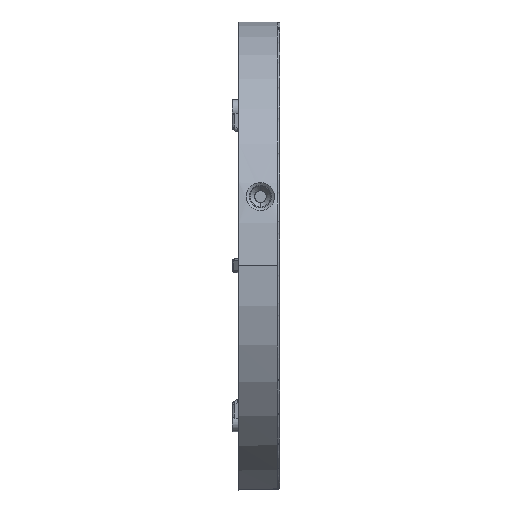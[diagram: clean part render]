
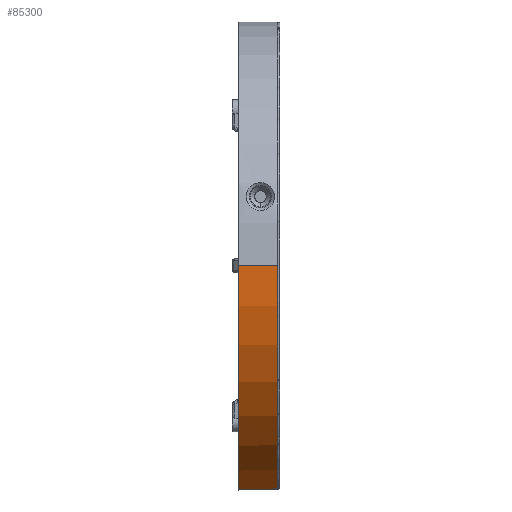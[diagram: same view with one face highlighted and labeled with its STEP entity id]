
A CAD part, left-side view. The second image highlights one B-rep face of the part: STEP entity #85300.
In plain terms, the highlighted conical face has half-angle 0.5 degrees and reference radius 25 mm.
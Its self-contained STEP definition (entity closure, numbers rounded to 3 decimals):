
#84380=CARTESIAN_POINT('',(2.446,-1.308,-28.));
#84390=DIRECTION('',(0.,1.,0.));
#84400=DIRECTION('',(0.,0.,1.));
#84410=AXIS2_PLACEMENT_3D('',#84380,#84390,#84400);
#84420=CONICAL_SURFACE('',#84410,25.,0.009);
#84430=CARTESIAN_POINT('',(25.334,-5.31,
-37.968));
#84440=CARTESIAN_POINT('',(25.336,-5.227,
-37.967));
#84450=CARTESIAN_POINT('',(25.337,-5.143,
-37.965));
#84460=CARTESIAN_POINT('',(25.339,-5.044,
-37.963));
#84470=CARTESIAN_POINT('',(25.339,-5.027,
-37.963));
#84480=CARTESIAN_POINT('',(25.34,-4.994,
-37.963));
#84490=CARTESIAN_POINT('',(25.34,-4.978,
-37.962));
#84500=CARTESIAN_POINT('',(25.341,-4.945,
-37.962));
#84510=CARTESIAN_POINT('',(25.341,-4.929,
-37.961));
#84520=CARTESIAN_POINT('',(25.343,-4.83,
-37.959));
#84530=CARTESIAN_POINT('',(25.345,-4.666,
-37.956));
#84540=CARTESIAN_POINT('',(25.348,-4.501,
-37.953));
#84550=CARTESIAN_POINT('',(25.353,-4.25,
-37.949));
#84560=CARTESIAN_POINT('',(25.356,-4.082,
-37.945));
#84570=CARTESIAN_POINT('',(25.359,-3.871,
-37.942));
#84580=CARTESIAN_POINT('',(25.36,-3.828,
-37.941));
#84590=CARTESIAN_POINT('',(25.362,-3.744,
-37.939));
#84600=CARTESIAN_POINT('',(25.362,-3.702,
-37.938));
#84610=CARTESIAN_POINT('',(25.365,-3.575,
-37.936));
#84620=CARTESIAN_POINT('',(25.366,-3.491,
-37.934));
#84630=CARTESIAN_POINT('',(25.368,-3.398,
-37.933));
#84640=CARTESIAN_POINT('',(25.368,-3.39,
-37.932));
#84650=CARTESIAN_POINT('',(25.368,-3.374,
-37.932));
#84660=CARTESIAN_POINT('',(25.368,-3.365,
-37.932));
#84670=CARTESIAN_POINT('',(25.369,-3.356,
-37.932));
#84680=CARTESIAN_POINT('',(25.369,-3.354,
-37.932));
#84690=CARTESIAN_POINT('',(25.369,-3.346,
-37.932));
#84700=CARTESIAN_POINT('',(25.369,-3.339,
-37.932));
#84710=CARTESIAN_POINT('',(25.369,-3.326,
-37.931));
#84720=CARTESIAN_POINT('',(25.369,-3.319,
-37.931));
#84730=CARTESIAN_POINT('',(25.37,-3.294,
-37.931));
#84740=CARTESIAN_POINT('',(25.37,-3.276,
-37.93));
#84750=CARTESIAN_POINT('',(25.37,-3.25,
-37.93));
#84760=CARTESIAN_POINT('',(25.371,-3.241,
-37.93));
#84770=CARTESIAN_POINT('',(25.371,-3.225,
-37.929));
#84780=CARTESIAN_POINT('',(25.371,-3.217,
-37.929));
#84790=CARTESIAN_POINT('',(25.374,-3.06,
-37.926));
#84800=CARTESIAN_POINT('',(25.376,-2.912,
-37.924));
#84810=CARTESIAN_POINT('',(25.382,-2.615,
-37.918));
#84820=CARTESIAN_POINT('',(25.384,-2.467,
-37.915));
#84830=CARTESIAN_POINT('',(25.389,-2.216,
-37.91));
#84840=CARTESIAN_POINT('',(25.391,-2.113,
-37.908));
#84850=CARTESIAN_POINT('',(25.393,-1.959,
-37.906));
#84860=CARTESIAN_POINT('',(25.395,-1.857,
-37.904));
#84870=CARTESIAN_POINT('',(25.397,-1.754,
-37.902));
#84880=CARTESIAN_POINT('',(25.398,-1.686,
-37.9));
#84890=CARTESIAN_POINT('',(25.398,-1.67,
-37.9));
#84900=CARTESIAN_POINT('',(25.399,-1.637,
-37.899));
#84910=CARTESIAN_POINT('',(25.399,-1.621,
-37.899));
#84920=CARTESIAN_POINT('',(25.4,-1.588,
-37.899));
#84930=CARTESIAN_POINT('',(25.4,-1.571,
-37.898));
#84940=CARTESIAN_POINT('',(25.405,-1.304,
-37.893));
#84950=CARTESIAN_POINT('',(25.409,-1.054,
-37.888));
#84960=CARTESIAN_POINT('',(25.414,-0.804,
-37.884));
#84970=(BOUNDED_CURVE() B_SPLINE_CURVE(3,(#84430,#84440,#84450,#84460,
#84470,#84480,#84490,#84500,#84510,#84520,#84530,#84540,#84550,#84560,
#84570,#84580,#84590,#84600,#84610,#84620,#84630,#84640,#84650,#84660,
#84670,#84680,#84690,#84700,#84710,#84720,#84730,#84740,#84750,#84760,
#84770,#84780,#84790,#84800,#84810,#84820,#84830,#84840,#84850,#84860,
#84870,#84880,#84890,#84900,#84910,#84920,#84930,#84940,#84950,#84960),
.UNSPECIFIED.,.F.,.F.) B_SPLINE_CURVE_WITH_KNOTS((4,2,2,2,2,1,2,2,2,2,2,
2,2,2,2,2,2,2,2,2,2,2,1,2,2,2,2,4),(68.261,68.51,
68.559,68.609,68.658,68.905,
69.152,69.658,69.785,69.911,
70.164,70.189,70.214,70.218,
70.238,70.259,70.313,70.338,
70.362,70.808,71.253,71.561,
71.715,71.869,71.918,71.967,
72.017,72.768),.UNSPECIFIED.) CURVE() 
GEOMETRIC_REPRESENTATION_ITEM() RATIONAL_B_SPLINE_CURVE((1.,1.,1.,1.,1.,
1.,1.,1.,1.,1.,1.,1.,1.,1.,1.,1.,1.,1.,1.,1.,1.,1.,1.,1.,1.,1.,1.,1.,1.,
1.,1.,1.,1.,1.,1.,1.,1.,1.,1.,1.,1.,1.,1.,1.,1.,1.,1.,1.,1.,1.,1.,1.,1.,
1.)) REPRESENTATION_ITEM(''));
#84980=CARTESIAN_POINT('',(25.334,-5.31,
-37.968));
#84990=VERTEX_POINT('',#84980);
#85000=CARTESIAN_POINT('',(25.405,-1.308,
-37.893));
#85010=VERTEX_POINT('',#85000);
#85020=EDGE_CURVE('',#84990,#85010,#84970,.T.);
#85030=ORIENTED_EDGE('',*,*,#85020,.F.);
#85040=CARTESIAN_POINT('',(2.446,-1.308,-28.));
#85050=DIRECTION('',(0.,-1.,0.));
#85060=DIRECTION('',(0.,0.,1.));
#85070=AXIS2_PLACEMENT_3D('',#85040,#85050,#85060);
#85080=CIRCLE('',#85070,25.);
#85090=CARTESIAN_POINT('',(2.446,-1.308,-53.));
#85100=VERTEX_POINT('',#85090);
#85110=EDGE_CURVE('',#85100,#85010,#85080,.T.);
#85120=ORIENTED_EDGE('',*,*,#85110,.T.);
#85130=CARTESIAN_POINT('',(2.446,-1.308,-53.));
#85140=DIRECTION('',(0.,1.,
-0.009));
#85150=VECTOR('',#85140,2864.825);
#85160=LINE('',#85130,#85150);
#85170=CARTESIAN_POINT('',(2.446,-5.31,
-52.965));
#85180=VERTEX_POINT('',#85170);
#85190=EDGE_CURVE('',#85180,#85100,#85160,.T.);
#85200=ORIENTED_EDGE('',*,*,#85190,.T.);
#85210=CARTESIAN_POINT('',(2.446,-5.31,-28.));
#85220=DIRECTION('',(0.,-1.,0.));
#85230=DIRECTION('',(0.,0.,1.));
#85240=AXIS2_PLACEMENT_3D('',#85210,#85220,#85230);
#85250=CIRCLE('',#85240,24.965);
#85260=EDGE_CURVE('',#85180,#84990,#85250,.T.);
#85270=ORIENTED_EDGE('',*,*,#85260,.F.);
#85280=EDGE_LOOP('',(#85270,#85200,#85120,#85030));
#85290=FACE_OUTER_BOUND('',#85280,.T.);
#85300=ADVANCED_FACE('',(#85290),#84420,.T.);
